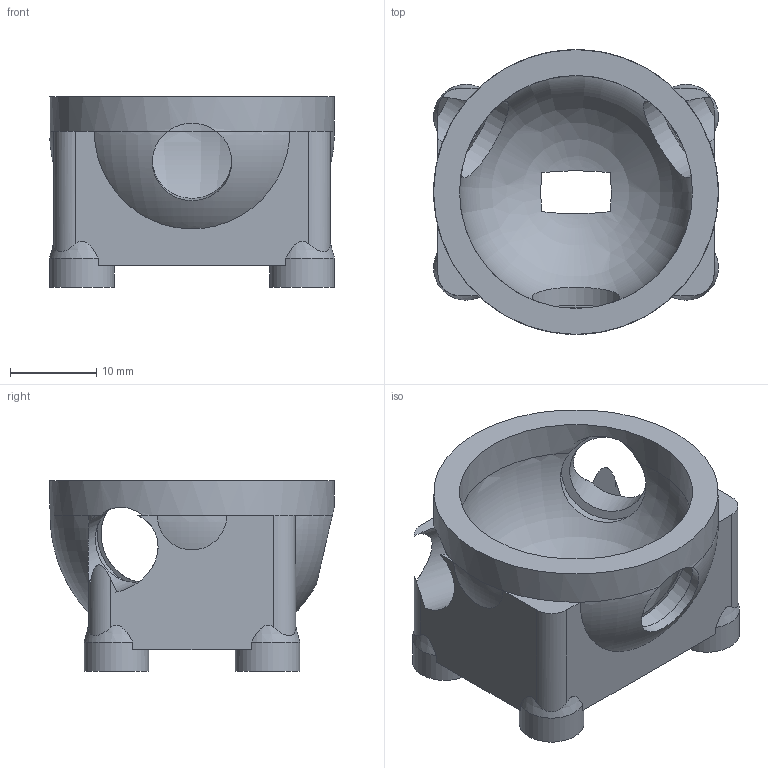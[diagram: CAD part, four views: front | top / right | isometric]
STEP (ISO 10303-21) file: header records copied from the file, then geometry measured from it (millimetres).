
FILE_DESCRIPTION(('Open CASCADE Model'),'2;1');
FILE_NAME('Open CASCADE Shape Model','2026-05-31T19:43:27',('Author'),( 'Open CASCADE'),'Open CASCADE STEP processor 7.6','Open CASCADE 7.6' ,'Unknown');
FILE_SCHEMA(('AP242_MANAGED_MODEL_BASED_3D_ENGINEERING_MIM_LF. {1 0 10303 442 1 1 4 }'));
Length unit declared in the file: millimetre
Products named in the file (1): Open CASCADE STEP translator 7.6 5
Bounding box: 33 x 33 x 22.1 mm (x, y, z)
Volume: 7757.8 mm3; surface area: 5347 mm2
Topology: 1 solids, 1 shells, 80 faces, 217 edges, 141 vertices
Faces by surface type: plane 41, cylinder 26, revolution 5, bspline 4, cone 4
Full cylindrical faces by diameter (mm): 3.5 x4, 7.5 x4, 9.2 x3, 11.2 x3, 27 x1, 33 x1
Entity records: 9102 total; most frequent: CARTESIAN_POINT 4943, DIRECTION 735, ORIENTED_EDGE 434, PCURVE 434, DEFINITIONAL_REPRESENTATION 434, LINE 326, VECTOR 326, EDGE_CURVE 217
